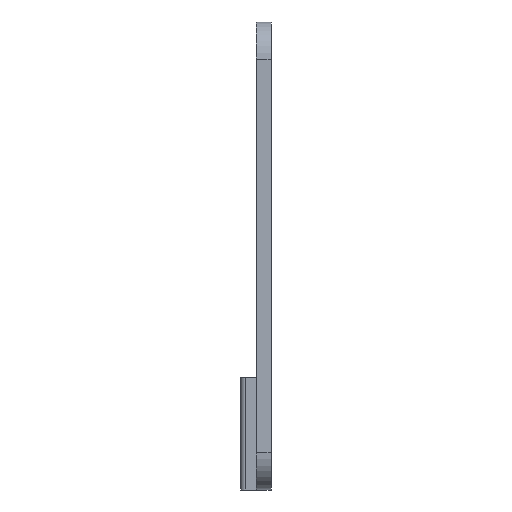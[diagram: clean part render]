
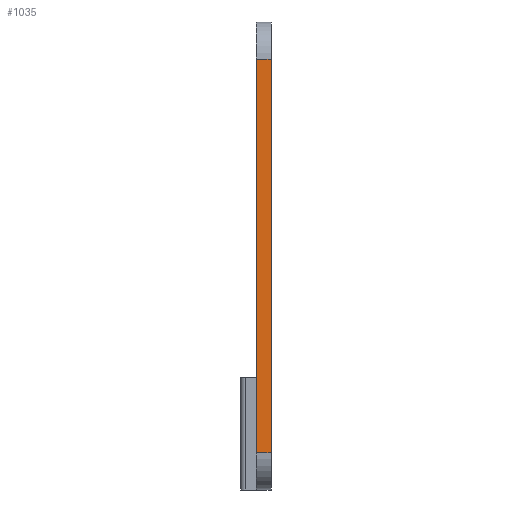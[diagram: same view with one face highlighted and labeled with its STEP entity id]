
A CAD part, left-side view. The second image highlights one B-rep face of the part: STEP entity #1035.
In plain terms, the highlighted planar face has unit normal (-1, 0, 0).
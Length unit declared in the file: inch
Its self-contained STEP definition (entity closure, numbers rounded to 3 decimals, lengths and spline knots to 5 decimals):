
#38 = EDGE_CURVE ( 'NONE', #934, #390, #231, .T. ) ;
#69 = CARTESIAN_POINT ( 'NONE',  ( 0., 0.1, -0.25 ) ) ;
#117 = AXIS2_PLACEMENT_3D ( 'NONE', #69, #1474, #685 ) ;
#154 = DIRECTION ( 'NONE',  ( 0., 0., 1. ) ) ;
#167 = CARTESIAN_POINT ( 'NONE',  ( 0., 0., -0.25 ) ) ;
#218 = VECTOR ( 'NONE', #1116, 39.37008 ) ;
#231 = LINE ( 'NONE', #777, #218 ) ;
#294 = DIRECTION ( 'NONE',  ( 0., -1., 0. ) ) ;
#323 = CARTESIAN_POINT ( 'NONE',  ( 0., 0.1, -2.9 ) ) ;
#331 = EDGE_LOOP ( 'NONE', ( #898, #906, #1038, #1393 ) ) ;
#378 = CARTESIAN_POINT ( 'NONE',  ( 0., 0.1, -0.25 ) ) ;
#390 = VERTEX_POINT ( 'NONE', #427 ) ;
#405 = CARTESIAN_POINT ( 'NONE',  ( 0., 0.1, -0.25 ) ) ;
#427 = CARTESIAN_POINT ( 'NONE',  ( 0., 0., -2.9 ) ) ;
#539 = VERTEX_POINT ( 'NONE', #961 ) ;
#685 = DIRECTION ( 'NONE',  ( 0., 0., -1. ) ) ;
#777 = CARTESIAN_POINT ( 'NONE',  ( 0., 0.1, -2.9 ) ) ;
#898 = ORIENTED_EDGE ( 'NONE', *, *, #1346, .T. ) ;
#906 = ORIENTED_EDGE ( 'NONE', *, *, #1506, .F. ) ;
#921 = PLANE ( 'NONE',  #117 ) ;
#934 = VERTEX_POINT ( 'NONE', #323 ) ;
#961 = CARTESIAN_POINT ( 'NONE',  ( 0., 0.1, -0.25 ) ) ;
#1035 = ADVANCED_FACE ( 'NONE', ( #1377 ), #921, .F. ) ;
#1038 = ORIENTED_EDGE ( 'NONE', *, *, #1098, .F. ) ;
#1098 = EDGE_CURVE ( 'NONE', #934, #539, #1299, .T. ) ;
#1116 = DIRECTION ( 'NONE',  ( 0., -1., 0. ) ) ;
#1165 = VECTOR ( 'NONE', #294, 39.37008 ) ;
#1175 = LINE ( 'NONE', #405, #1165 ) ;
#1200 = VECTOR ( 'NONE', #154, 39.37008 ) ;
#1212 = LINE ( 'NONE', #167, #1200 ) ;
#1295 = VECTOR ( 'NONE', #1440, 39.37008 ) ;
#1299 = LINE ( 'NONE', #378, #1295 ) ;
#1346 = EDGE_CURVE ( 'NONE', #390, #1412, #1212, .T. ) ;
#1377 = FACE_OUTER_BOUND ( 'NONE', #331, .T. ) ;
#1393 = ORIENTED_EDGE ( 'NONE', *, *, #38, .T. ) ;
#1412 = VERTEX_POINT ( 'NONE', #1539 ) ;
#1440 = DIRECTION ( 'NONE',  ( 0., 0., 1. ) ) ;
#1474 = DIRECTION ( 'NONE',  ( 1., 0., 0. ) ) ;
#1506 = EDGE_CURVE ( 'NONE', #539, #1412, #1175, .T. ) ;
#1539 = CARTESIAN_POINT ( 'NONE',  ( 0., 0., -0.25 ) ) ;
